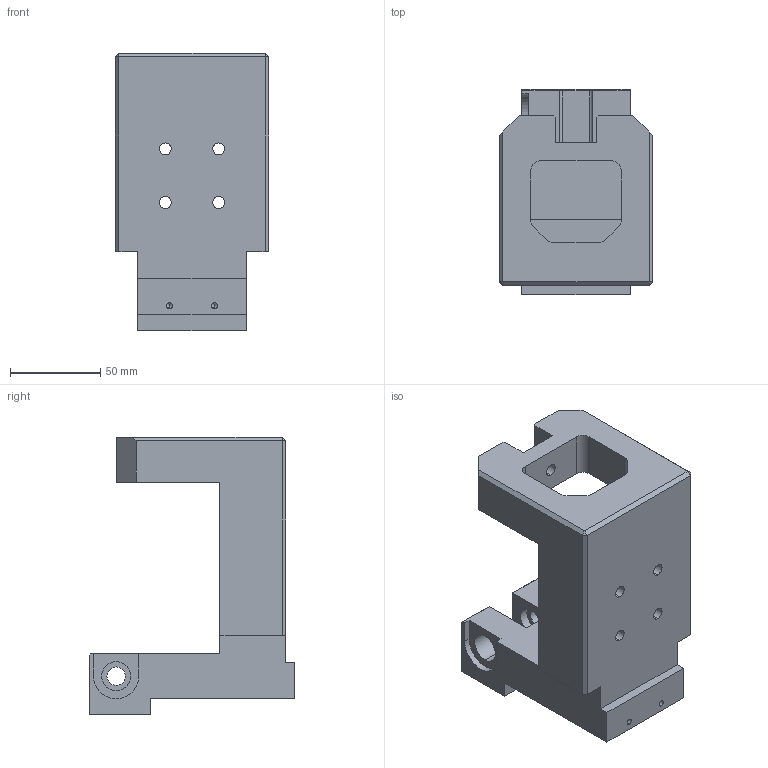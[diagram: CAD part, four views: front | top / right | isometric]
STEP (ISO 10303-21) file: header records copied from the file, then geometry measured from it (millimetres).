
FILE_DESCRIPTION (( 'STEP AP203' ), '1' );
FILE_NAME ('YWSD-2026-03-01-05-02=003 標厥輸.STEP', '2026-07-24T07:36:22', ( 'Windows 蚚誧' ), ( '' ), 'SwSTEP 2.0', 'SolidWorks 2024', '' );
FILE_SCHEMA (( 'CONFIG_CONTROL_DESIGN' ));
Length unit declared in the file: millimetre
Products named in the file (1): YWSD-2026-03-01-05-02=003 夹持块
Bounding box: 85 x 114 x 154 mm (x, y, z)
Volume: 570946 mm3; surface area: 75572.6 mm2
Topology: 1 solids, 1 shells, 124 faces, 324 edges, 198 vertices
Faces by surface type: plane 57, cylinder 49, cone 18
Entity records: 3785 total; most frequent: DIRECTION 658, CARTESIAN_POINT 631, ORIENTED_EDGE 616, EDGE_CURVE 308, AXIS2_PLACEMENT_3D 225, LINE 208, VECTOR 208, VERTEX_POINT 198
